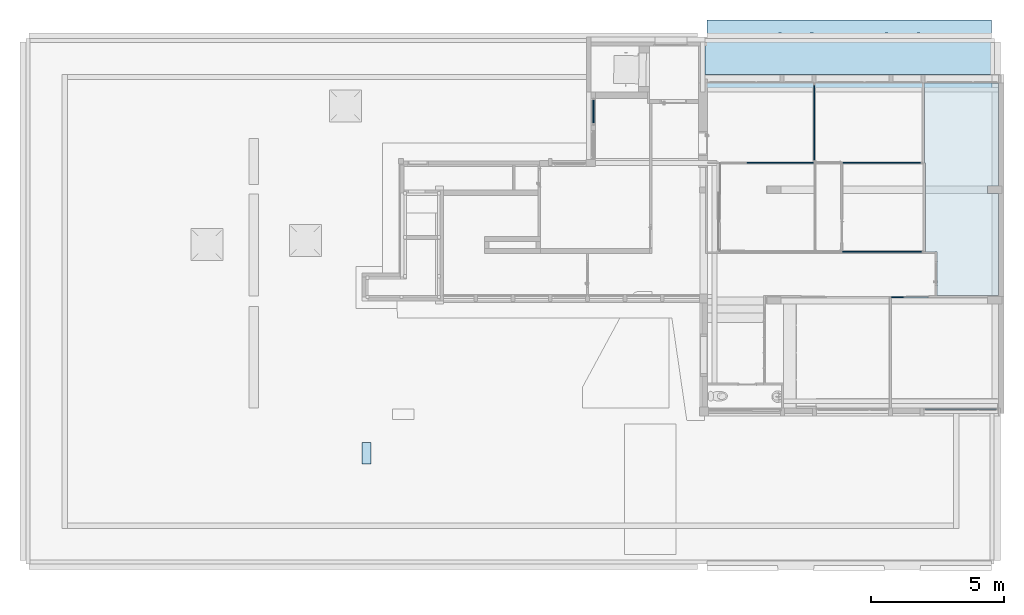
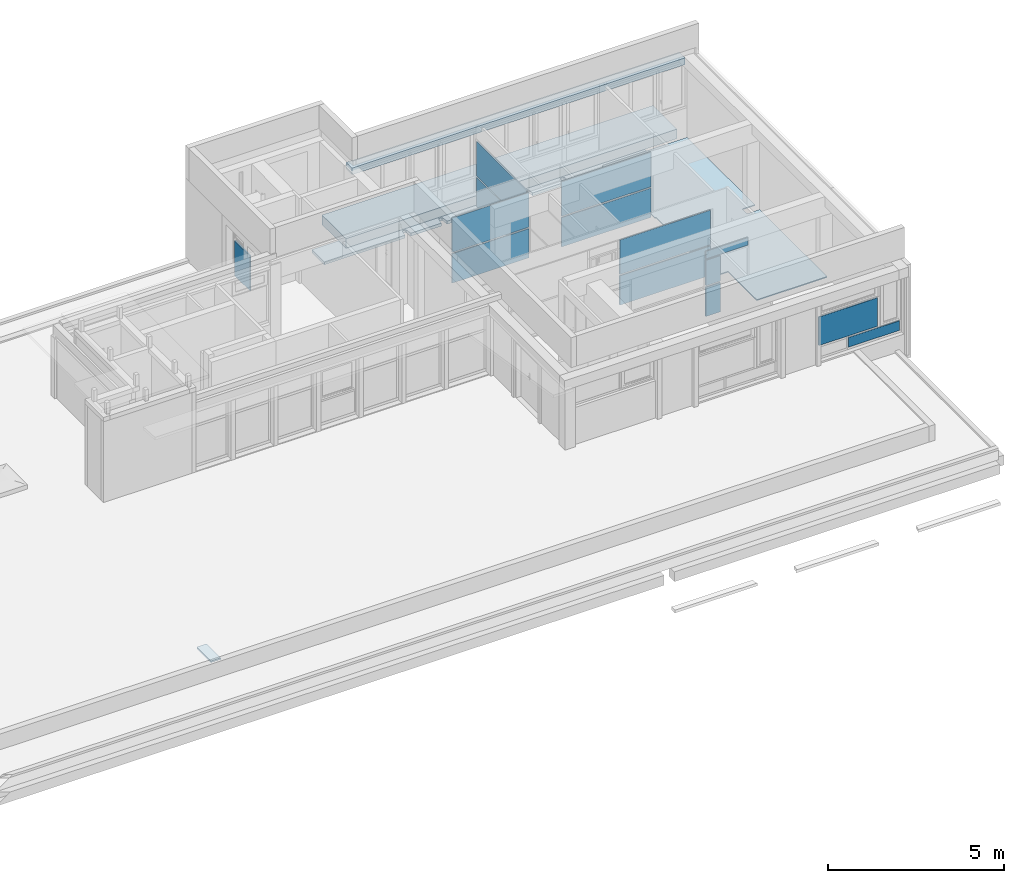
# One storey, part 20 of 49: 14 plates, 5 slabs, 8 elements without a shape of their own.
"""IFC4 building model written with IfcOpenShell, lengths in metres."""

from ifc_helpers import new_model, entity, si_unit, converted_unit, derived_unit, direction, frame, origin, place, context, subcontext, project, spatial, indexed_curve, outline, extrude, shape, source, transform, mapped, material, layer, layer_set, type_object, type_shapes, element, aggregate, save


model = new_model("IFC4")

# Units and contexts
model_context = context("Model", 3, precision=1e-05, world=origin(), true_north=direction((6.12303176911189e-17, 1.0)))
body_context = subcontext(model_context, "Body", "Model", "MODEL_VIEW")
footprint_context = subcontext(model_context, "FootPrint", "Model", "MODEL_VIEW")
ifc_project = project(units=[si_unit("LENGTHUNIT", "METRE"), si_unit("AREAUNIT", "SQUARE_METRE"), si_unit("VOLUMEUNIT", "CUBIC_METRE"), converted_unit("PLANEANGLEUNIT", "DEGREE", entity("IfcRatioMeasure", 0.0174532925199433), si_unit("PLANEANGLEUNIT", "RADIAN"), dimensions=[0, 0, 0, 0, 0, 0, 0]), si_unit("MASSUNIT", "GRAM", prefix="KILO"), derived_unit("MASSDENSITYUNIT", [(si_unit("MASSUNIT", "GRAM", prefix="KILO"), 1), (si_unit("LENGTHUNIT", "METRE"), -3)]), derived_unit("MOMENTOFINERTIAUNIT", [(si_unit("LENGTHUNIT", "METRE"), 4)]), si_unit("TIMEUNIT", "SECOND"), si_unit("FREQUENCYUNIT", "HERTZ"), si_unit("THERMODYNAMICTEMPERATUREUNIT", "DEGREE_CELSIUS"), derived_unit("THERMALTRANSMITTANCEUNIT", [(si_unit("MASSUNIT", "GRAM", prefix="KILO"), 1), (si_unit("THERMODYNAMICTEMPERATUREUNIT", "KELVIN"), -1), (si_unit("TIMEUNIT", "SECOND"), -3)]), derived_unit("VOLUMETRICFLOWRATEUNIT", [(si_unit("LENGTHUNIT", "METRE"), 3), (si_unit("TIMEUNIT", "SECOND"), -1)]), si_unit("ELECTRICCURRENTUNIT", "AMPERE"), si_unit("ELECTRICVOLTAGEUNIT", "VOLT"), si_unit("POWERUNIT", "WATT"), si_unit("FORCEUNIT", "NEWTON", prefix="KILO"), si_unit("ILLUMINANCEUNIT", "LUX"), si_unit("LUMINOUSFLUXUNIT", "LUMEN"), si_unit("LUMINOUSINTENSITYUNIT", "CANDELA"), derived_unit("USERDEFINED", [(si_unit("MASSUNIT", "GRAM", prefix="KILO"), -1), (si_unit("LENGTHUNIT", "METRE"), -2), (si_unit("TIMEUNIT", "SECOND"), 3), (si_unit("LUMINOUSFLUXUNIT", "LUMEN"), 1)]), derived_unit("LINEARVELOCITYUNIT", [(si_unit("LENGTHUNIT", "METRE"), 1), (si_unit("TIMEUNIT", "SECOND"), -1)]), si_unit("PRESSUREUNIT", "PASCAL"), derived_unit("USERDEFINED", [(si_unit("LENGTHUNIT", "METRE"), -2), (si_unit("MASSUNIT", "GRAM", prefix="KILO"), 1), (si_unit("TIMEUNIT", "SECOND"), -2)]), derived_unit("LINEARFORCEUNIT", [(si_unit("MASSUNIT", "GRAM", prefix="KILO"), 1), (si_unit("LENGTHUNIT", "METRE"), 1), (si_unit("TIMEUNIT", "SECOND"), -2), (si_unit("LENGTHUNIT", "METRE"), -1)]), derived_unit("PLANARFORCEUNIT", [(si_unit("MASSUNIT", "GRAM", prefix="KILO"), 1), (si_unit("LENGTHUNIT", "METRE"), 1), (si_unit("TIMEUNIT", "SECOND"), -2), (si_unit("LENGTHUNIT", "METRE"), -2)])], contexts=[model_context])

# Site, building, storey
site_placement = place(None, origin())
site = spatial("IfcSite", under=ifc_project, at=site_placement, Name="Default", CompositionType="ELEMENT")
building_placement = place(site_placement, origin())
building = spatial("IfcBuilding", under=site, at=building_placement, Name="HOTEL CONSULAIRE BOULOGNE SUR MER", CompositionType="ELEMENT")
storey_placement = place(building_placement, frame((0.0, 0.0, 6.81974152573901)))
storey = spatial("IfcBuildingStorey", under=building, at=storey_placement, Name="Niveau 2", CompositionType="ELEMENT", Elevation=6.81974152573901)

# Slab
ifc_material_1 = material(Name="Plâtre", Category="Plâtre")
ifc_layer_1 = layer(ifc_material_1, 0.05, Name="Plâtre", Category="Plâtre")
ifc_layer_set_1 = layer_set([ifc_layer_1], Name="Sol:plâtre 50")
slab_type_1 = type_object("IfcSlabType", Name="Sol:plâtre 50", PredefinedType="FLOOR", material=ifc_layer_set_1)
slab_1_placement = place(storey_placement, origin())
element("IfcSlab", 1, at=slab_1_placement, inside=storey, type_object=slab_type_1, material=ifc_layer_set_1, Name="Sol:plâtre 50", ObjectType="Sol:plâtre 50", PredefinedType="FLOOR", context=body_context, shape_type="SweptSolid", body=[
    extrude(outline(indexed_curve([(-0.4031453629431, -0.161), (0.403145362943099, -0.161), (0.4031453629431, 0.161), (-0.403145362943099, 0.161), (-0.4031453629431, -0.161)], self_intersect=False)), frame((-1.12314453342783, -25.5245460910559, -1.15221454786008), z_axis=(0.0, 0.0, -1.0), x_axis=(0.0, 1.0, 0.0)), (0.0, 0.0, 1.0), 0.0499999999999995),
])

# Curtain wall, plates
curtain_wall_type = type_object("IfcCurtainWallType", Name="Mur-rideau:Simple panneau", PredefinedType="NOTDEFINED")
curtain_wall_1_placement = place(storey_placement, frame((0.0, 0.0, -6.81974152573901)))
curtain_wall_1 = element("IfcCurtainWall", 2, at=curtain_wall_1_placement, inside=storey, type_object=curtain_wall_type, Name="Mur-rideau:Simple panneau", ObjectType="Mur-rideau:Simple panneau", PredefinedType="NOTDEFINED")
ifc_material_2 = material(Name="Verre", Category="Verre")
ifc_layer_2 = layer(ifc_material_2, 0.04, Name="Verre", Category="Verre")
ifc_layer_set_2 = layer_set([ifc_layer_2], Name="Mur-rideau:Simple panneau")
plate_type_1 = type_object("IfcPlateType", Name="Panneau système:Plein", PredefinedType="CURTAIN_PANEL", material=ifc_layer_set_2)
shared_shape_1 = source(origin(), body_context, "Body", "SweptSolid", [
    extrude(outline(indexed_curve([(-0.02, -0.238499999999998), (0.02, -0.238499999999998), (0.02, 0.238499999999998), (-0.02, 0.238499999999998), (-0.02, -0.238499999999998)], self_intersect=False)), frame((0.238499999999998, 0.02, 0.0), z_axis=(0.0, 0.0, 1.0), x_axis=(0.0, 1.0, 0.0)), (0.0, 0.0, 1.0), 1.016),
])
shared_shape_2 = source(frame((-0.238499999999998, 0.00500000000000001, 0.0)), footprint_context, "FootPrint", "Curve2D", [
    entity("IfcIndexedPolyCurve", entity("IfcCartesianPointList2D", [[0.311194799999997, 0.003476], [0.311194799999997, 0.043476], [-0.165805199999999, 0.043476], [-0.165805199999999, 0.003476], [0.311194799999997, 0.003476]]), None, False),
])
type_shapes(plate_type_1, [shared_shape_1, shared_shape_2])
plate_1_placement = place(curtain_wall_1_placement, frame((19.0453568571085, -19.648155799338, 6.88974152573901), z_axis=(0.0, 0.0, 1.0), x_axis=(-1.0, 0.0, 0.0)))
plate_1 = element("IfcPlate", 3, at=plate_1_placement, type_object=plate_type_1, material=ifc_layer_set_2, Name="Panneau système:Plein", ObjectType="Panneau système:Plein", PredefinedType="CURTAIN_PANEL", shapes=[
    shape(body_context, "Body", "MappedRepresentation", [mapped(shared_shape_1, transform((0.0, 0.0, 0.0), scale=1.0))]),
    shape(body_context, "Body", "MappedRepresentation", [mapped(shared_shape_2, transform((0.0, 0.0, 0.0), scale=1.0))]),
])
ifc_layer_3 = layer(ifc_material_2, 0.04, Name="Verre", Category="Verre")
ifc_layer_set_3 = layer_set([ifc_layer_3], Name="Mur-rideau:Simple panneau")
plate_type_2 = type_object("IfcPlateType", Name="Panneau système:Vitré", PredefinedType="CURTAIN_PANEL", material=ifc_layer_set_3)
shared_shape_3 = source(origin(), body_context, "Body", "SweptSolid", [
    extrude(outline(indexed_curve([(-0.02, -0.238499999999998), (0.02, -0.238499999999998), (0.02, 0.238499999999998), (-0.02, 0.238499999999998), (-0.02, -0.238499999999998)], self_intersect=False)), frame((0.238499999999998, 0.02, 0.0), z_axis=(0.0, 0.0, 1.0), x_axis=(0.0, 1.0, 0.0)), (0.0, 0.0, 1.0), 0.885),
])
shared_shape_4 = source(frame((-0.238499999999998, 0.00500000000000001, 0.0)), footprint_context, "FootPrint", "Curve2D", [
    entity("IfcIndexedPolyCurve", entity("IfcCartesianPointList2D", [[0.311194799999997, 0.003476], [0.311194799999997, 0.043476], [-0.165805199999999, 0.043476], [-0.165805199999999, 0.003476], [0.311194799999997, 0.003476]]), None, False),
])
type_shapes(plate_type_2, [shared_shape_3, shared_shape_4])
plate_2_placement = place(curtain_wall_1_placement, frame((19.0453568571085, -19.648155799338, 7.95574152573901), z_axis=(0.0, 0.0, 1.0), x_axis=(-1.0, 0.0, 0.0)))
plate_2 = element("IfcPlate", 4, at=plate_2_placement, type_object=plate_type_2, material=ifc_layer_set_3, Name="Panneau système:Vitré", ObjectType="Panneau système:Vitré", PredefinedType="CURTAIN_PANEL", shapes=[
    shape(body_context, "Body", "MappedRepresentation", [mapped(shared_shape_3, transform((0.0, 0.0, 0.0), scale=1.0))]),
    shape(body_context, "Body", "MappedRepresentation", [mapped(shared_shape_4, transform((0.0, 0.0, 0.0), scale=1.0))]),
])
plate_type_3 = type_object("IfcPlateType", Name="Panneau système:Vitré", PredefinedType="CURTAIN_PANEL", material=ifc_layer_set_3)
shared_shape_5 = source(origin(), body_context, "Body", "SweptSolid", [
    extrude(outline(indexed_curve([(-0.1305, -0.751333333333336), (0.1305, -0.751333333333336), (0.1305, 0.11966666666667), (0.1305, 0.631666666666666), (-0.1305, 0.631666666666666), (-0.1305, 0.11966666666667), (-0.1305, -0.751333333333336)], self_intersect=False)), frame((0.751333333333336, 0.0, 0.1305), z_axis=(0.0, 1.0, 0.0), x_axis=(0.0, 0.0, 1.0)), (0.0, 0.0, 1.0), 0.04),
])
shared_shape_6 = source(frame((-0.691500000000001, 0.00500000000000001, 0.0)), footprint_context, "FootPrint", "Curve2D", [
    entity("IfcIndexedPolyCurve", entity("IfcCartesianPointList2D", [[-0.480730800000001, 0.003476], [-0.480730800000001, 0.003476], [0.390269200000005, 0.003476], [0.902269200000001, 0.003476], [0.902269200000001, 0.003476], [0.390269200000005, 0.003476], [-0.480730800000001, 0.003476]]), None, False),
])
type_shapes(plate_type_3, [shared_shape_5, shared_shape_6])
plate_3_placement = place(curtain_wall_1_placement, frame((19.9513568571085, -19.648155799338, 8.89074152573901), z_axis=(0.0, 0.0, 1.0), x_axis=(-1.0, 0.0, 0.0)))
plate_3 = element("IfcPlate", 5, at=plate_3_placement, type_object=plate_type_3, material=ifc_layer_set_3, Name="Panneau système:Vitré", ObjectType="Panneau système:Vitré", PredefinedType="CURTAIN_PANEL", shapes=[
    shape(body_context, "Body", "MappedRepresentation", [mapped(shared_shape_5, transform((0.0, 0.0, 0.0), scale=1.0))]),
    shape(body_context, "Body", "MappedRepresentation", [mapped(shared_shape_6, transform((0.0, 0.0, 0.0), scale=1.0))]),
])
aggregate(curtain_wall_1, [plate_1, plate_2, plate_3])

curtain_wall_2_placement = place(storey_placement, frame((0.0, 0.0, -6.81974152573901)))
curtain_wall_2 = element("IfcCurtainWall", 6, at=curtain_wall_2_placement, inside=storey, type_object=curtain_wall_type, Name="Mur-rideau:Simple panneau", ObjectType="Mur-rideau:Simple panneau", PredefinedType="NOTDEFINED")
plate_type_4 = type_object("IfcPlateType", Name="Panneau système:Plein", PredefinedType="CURTAIN_PANEL", material=ifc_layer_set_2)
shared_shape_7 = source(origin(), body_context, "Body", "SweptSolid", [
    extrude(outline(indexed_curve([(-0.02, -1.46487282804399), (0.02, -1.46487282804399), (0.02, 1.46487282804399), (-0.02, 1.46487282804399), (-0.02, -1.46487282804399)], self_intersect=False)), frame((1.46487282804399, 0.02, 0.0), z_axis=(0.0, 0.0, 1.0), x_axis=(0.0, 1.0, 0.0)), (0.0, 0.0, 1.0), 1.016),
])
shared_shape_8 = source(frame((-1.46487282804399, 0.00500000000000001, 0.0)), footprint_context, "FootPrint", "Curve2D", [
    entity("IfcIndexedPolyCurve", entity("IfcCartesianPointList2D", [[1.9113660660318, 0.003476], [1.9113660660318, 0.043476], [-1.01837959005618, 0.043476], [-1.01837959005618, 0.003476], [1.9113660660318, 0.003476]]), None, False),
])
type_shapes(plate_type_4, [shared_shape_7, shared_shape_8])
plate_4_placement = place(curtain_wall_2_placement, frame((19.672821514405, -14.6074237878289, 6.88974152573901), z_axis=(0.0, 0.0, 1.0), x_axis=(-1.0, 0.0, 0.0)))
plate_4 = element("IfcPlate", 7, at=plate_4_placement, type_object=plate_type_4, material=ifc_layer_set_2, Name="Panneau système:Plein", ObjectType="Panneau système:Plein", PredefinedType="CURTAIN_PANEL", shapes=[
    shape(body_context, "Body", "MappedRepresentation", [mapped(shared_shape_7, transform((0.0, 0.0, 0.0), scale=1.0))]),
    shape(body_context, "Body", "MappedRepresentation", [mapped(shared_shape_8, transform((0.0, 0.0, 0.0), scale=1.0))]),
])
plate_type_5 = type_object("IfcPlateType", Name="Panneau système:Plein", PredefinedType="CURTAIN_PANEL", material=ifc_layer_set_2)
shared_shape_9 = source(origin(), body_context, "Body", "SweptSolid", [
    extrude(outline(indexed_curve([(-0.02, -1.2565), (0.02, -1.2565), (0.02, 1.2565), (-0.02, 1.2565), (-0.02, -1.2565)], self_intersect=False)), frame((1.2565, 0.02, 0.0), z_axis=(0.0, 0.0, 1.0), x_axis=(0.0, 1.0, 0.0)), (0.0, 0.0, 1.0), 1.016),
])
shared_shape_10 = source(frame((-1.2565, 0.00500000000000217, 0.0)), footprint_context, "FootPrint", "Curve2D", [
    entity("IfcIndexedPolyCurve", entity("IfcCartesianPointList2D", [[1.6394812, 0.00347600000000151], [1.6394812, 0.0434760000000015], [-0.873518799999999, 0.0434760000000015], [-0.873518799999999, 0.00347600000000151], [1.6394812, 0.00347600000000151]]), None, False),
])
type_shapes(plate_type_5, [shared_shape_9, shared_shape_10])
plate_5_placement = place(curtain_wall_2_placement, frame((15.661075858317, -14.6074237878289, 6.88974152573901), z_axis=(0.0, 0.0, 1.0), x_axis=(-1.0, 0.0, 0.0)))
plate_5 = element("IfcPlate", 8, at=plate_5_placement, type_object=plate_type_5, material=ifc_layer_set_2, Name="Panneau système:Plein", ObjectType="Panneau système:Plein", PredefinedType="CURTAIN_PANEL", shapes=[
    shape(body_context, "Body", "MappedRepresentation", [mapped(shared_shape_9, transform((0.0, 0.0, 0.0), scale=1.0))]),
    shape(body_context, "Body", "MappedRepresentation", [mapped(shared_shape_10, transform((0.0, 0.0, 0.0), scale=1.0))]),
])
plate_type_6 = type_object("IfcPlateType", Name="Panneau système:Vitré", PredefinedType="CURTAIN_PANEL", material=ifc_layer_set_3)
shared_shape_11 = source(origin(), body_context, "Body", "SweptSolid", [
    extrude(outline(indexed_curve([(-0.701999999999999, -1.46487282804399), (0.207999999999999, -1.46487282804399), (0.493999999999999, -1.46487282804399), (0.493999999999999, 1.46487282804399), (0.207999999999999, 1.46487282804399), (-0.701999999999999, 1.46487282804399), (-0.701999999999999, -1.46487282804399)], self_intersect=False)), frame((1.46487282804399, 0.0, 0.701999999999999), z_axis=(0.0, 1.0, 0.0), x_axis=(0.0, 0.0, 1.0)), (0.0, 0.0, 1.0), 0.04),
])
shared_shape_12 = source(frame((-1.46487282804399, 0.00500000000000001, 0.0)), footprint_context, "FootPrint", "Curve2D", [
    entity("IfcIndexedPolyCurve", entity("IfcCartesianPointList2D", [[-1.01837959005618, 0.003476], [-1.01837959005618, 0.003476], [-1.01837959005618, 0.003476], [1.9113660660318, 0.003476], [1.9113660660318, 0.003476], [1.9113660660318, 0.003476], [-1.01837959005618, 0.003476]]), None, False),
])
type_shapes(plate_type_6, [shared_shape_11, shared_shape_12])
plate_6_placement = place(curtain_wall_2_placement, frame((19.672821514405, -14.6074237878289, 7.95574152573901), z_axis=(0.0, 0.0, 1.0), x_axis=(-1.0, 0.0, 0.0)))
plate_6 = element("IfcPlate", 9, at=plate_6_placement, type_object=plate_type_6, material=ifc_layer_set_3, Name="Panneau système:Vitré", ObjectType="Panneau système:Vitré", PredefinedType="CURTAIN_PANEL", shapes=[
    shape(body_context, "Body", "MappedRepresentation", [mapped(shared_shape_11, transform((0.0, 0.0, 0.0), scale=1.0))]),
    shape(body_context, "Body", "MappedRepresentation", [mapped(shared_shape_12, transform((0.0, 0.0, 0.0), scale=1.0))]),
])
plate_type_7 = type_object("IfcPlateType", Name="Panneau système:Plein", PredefinedType="CURTAIN_PANEL", material=ifc_layer_set_2)
shared_shape_13 = source(origin(), body_context, "Body", "SweptSolid", [
    extrude(outline(indexed_curve([(-0.701999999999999, -1.2565), (0.207999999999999, -1.2565), (0.493999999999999, -1.2565), (0.493999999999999, 1.2565), (0.207999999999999, 1.2565), (-0.701999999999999, 1.2565), (-0.701999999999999, -1.2565)], self_intersect=False)), frame((1.2565, 0.0, 0.701999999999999), z_axis=(0.0, 1.0, 0.0), x_axis=(0.0, 0.0, 1.0)), (0.0, 0.0, 1.0), 0.04),
])
shared_shape_14 = source(frame((-1.2565, 0.00500000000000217, 0.0)), footprint_context, "FootPrint", "Curve2D", [
    entity("IfcIndexedPolyCurve", entity("IfcCartesianPointList2D", [[-0.873518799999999, 0.00347600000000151], [-0.873518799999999, 0.00347600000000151], [-0.873518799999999, 0.00347600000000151], [1.6394812, 0.00347600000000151], [1.6394812, 0.00347600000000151], [1.6394812, 0.00347600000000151], [-0.873518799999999, 0.00347600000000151]]), None, False),
])
type_shapes(plate_type_7, [shared_shape_13, shared_shape_14])
plate_7_placement = place(curtain_wall_2_placement, frame((15.661075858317, -14.6074237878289, 7.95574152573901), z_axis=(0.0, 0.0, 1.0), x_axis=(-1.0, 0.0, 0.0)))
plate_7 = element("IfcPlate", 10, at=plate_7_placement, type_object=plate_type_7, material=ifc_layer_set_2, Name="Panneau système:Plein", ObjectType="Panneau système:Plein", PredefinedType="CURTAIN_PANEL", shapes=[
    shape(body_context, "Body", "MappedRepresentation", [mapped(shared_shape_13, transform((0.0, 0.0, 0.0), scale=1.0))]),
    shape(body_context, "Body", "MappedRepresentation", [mapped(shared_shape_14, transform((0.0, 0.0, 0.0), scale=1.0))]),
])
aggregate(curtain_wall_2, [plate_4, plate_5, plate_6, plate_7])

curtain_wall_3_placement = place(storey_placement, frame((0.0, 0.0, -6.81974152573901)))
curtain_wall_3 = element("IfcCurtainWall", 11, at=curtain_wall_3_placement, inside=storey, type_object=curtain_wall_type, Name="Mur-rideau:Simple panneau", ObjectType="Mur-rideau:Simple panneau", PredefinedType="NOTDEFINED")
plate_type_8 = type_object("IfcPlateType", Name="Panneau système:Plein", PredefinedType="CURTAIN_PANEL", material=ifc_layer_set_2)
shared_shape_15 = source(origin(), body_context, "Body", "SweptSolid", [
    extrude(outline(indexed_curve([(-0.02, -1.4905), (0.02, -1.4905), (0.02, 1.4905), (-0.02, 1.4905), (-0.02, -1.4905)], self_intersect=False)), frame((1.4905, 0.02, 0.0), z_axis=(0.0, 0.0, 1.0), x_axis=(0.0, 1.0, 0.0)), (0.0, 0.0, 1.0), 1.016),
])
shared_shape_16 = source(frame((-1.4905, 0.00500000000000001, 0.0)), footprint_context, "FootPrint", "Curve2D", [
    entity("IfcIndexedPolyCurve", entity("IfcCartesianPointList2D", [[1.9448044, 0.003476], [1.9448044, 0.043476], [-1.0361956, 0.043476], [-1.0361956, 0.003476], [1.9448044, 0.003476]]), None, False),
])
type_shapes(plate_type_8, [shared_shape_15, shared_shape_16])
plate_8_placement = place(curtain_wall_3_placement, frame((19.712075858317, -17.9363078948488, 6.88974152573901), z_axis=(0.0, 0.0, 1.0), x_axis=(-1.0, 0.0, 0.0)))
plate_8 = element("IfcPlate", 12, at=plate_8_placement, type_object=plate_type_8, material=ifc_layer_set_2, Name="Panneau système:Plein", ObjectType="Panneau système:Plein", PredefinedType="CURTAIN_PANEL", shapes=[
    shape(body_context, "Body", "MappedRepresentation", [mapped(shared_shape_15, transform((0.0, 0.0, 0.0), scale=1.0))]),
    shape(body_context, "Body", "MappedRepresentation", [mapped(shared_shape_16, transform((0.0, 0.0, 0.0), scale=1.0))]),
])
plate_type_9 = type_object("IfcPlateType", Name="Panneau système:Vitré", PredefinedType="CURTAIN_PANEL", material=ifc_layer_set_3)
shared_shape_17 = source(origin(), body_context, "Body", "SweptSolid", [
    extrude(outline(indexed_curve([(-0.701999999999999, -1.4905), (0.207999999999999, -1.4905), (0.493999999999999, -1.4905), (0.493999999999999, 1.4905), (0.207999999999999, 1.4905), (-0.701999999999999, 1.4905), (-0.701999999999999, -1.4905)], self_intersect=False)), frame((1.4905, 0.0, 0.701999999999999), z_axis=(0.0, 1.0, 0.0), x_axis=(0.0, 0.0, 1.0)), (0.0, 0.0, 1.0), 0.04),
])
shared_shape_18 = source(frame((-1.4905, 0.00500000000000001, 0.0)), footprint_context, "FootPrint", "Curve2D", [
    entity("IfcIndexedPolyCurve", entity("IfcCartesianPointList2D", [[-1.0361956, 0.003476], [-1.0361956, 0.003476], [-1.0361956, 0.003476], [1.9448044, 0.003476], [1.9448044, 0.003476], [1.9448044, 0.003476], [-1.0361956, 0.003476]]), None, False),
])
type_shapes(plate_type_9, [shared_shape_17, shared_shape_18])
plate_9_placement = place(curtain_wall_3_placement, frame((19.712075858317, -17.9363078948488, 7.95574152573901), z_axis=(0.0, 0.0, 1.0), x_axis=(-1.0, 0.0, 0.0)))
plate_9 = element("IfcPlate", 13, at=plate_9_placement, type_object=plate_type_9, material=ifc_layer_set_3, Name="Panneau système:Vitré", ObjectType="Panneau système:Vitré", PredefinedType="CURTAIN_PANEL", shapes=[
    shape(body_context, "Body", "MappedRepresentation", [mapped(shared_shape_17, transform((0.0, 0.0, 0.0), scale=1.0))]),
    shape(body_context, "Body", "MappedRepresentation", [mapped(shared_shape_18, transform((0.0, 0.0, 0.0), scale=1.0))]),
])
aggregate(curtain_wall_3, [plate_8, plate_9])

curtain_wall_4_placement = place(storey_placement, frame((0.0, 0.0, -6.81974152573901)))
curtain_wall_4 = element("IfcCurtainWall", 14, at=curtain_wall_4_placement, inside=storey, type_object=curtain_wall_type, Name="Mur-rideau:Simple panneau", ObjectType="Mur-rideau:Simple panneau", PredefinedType="NOTDEFINED")
plate_type_10 = type_object("IfcPlateType", Name="Panneau système:Vitré", PredefinedType="CURTAIN_PANEL", material=ifc_layer_set_3)
shared_shape_19 = source(origin(), body_context, "Body", "SweptSolid", [
    extrude(outline(indexed_curve([(-0.168, -0.895000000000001), (0.168, -0.895000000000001), (0.168, 0.103000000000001), (0.168, 0.792), (-0.168, 0.792), (-0.168, 0.103000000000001), (-0.168, -0.895000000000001)], self_intersect=False)), frame((0.895000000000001, 0.0, 0.168), z_axis=(0.0, 1.0, 0.0), x_axis=(0.0, 0.0, 1.0)), (0.0, 0.0, 1.0), 0.04),
])
shared_shape_20 = source(frame((-0.843500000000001, 0.00500000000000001, 0.0)), footprint_context, "FootPrint", "Curve2D", [
    entity("IfcIndexedPolyCurve", entity("IfcCartesianPointList2D", [[-0.5864012, 0.003476], [-0.5864012, 0.003476], [0.411598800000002, 0.003476], [1.1005988, 0.003476], [1.1005988, 0.003476], [0.411598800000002, 0.003476], [-0.5864012, 0.003476]]), None, False),
])
type_shapes(plate_type_10, [shared_shape_19, shared_shape_20])
plate_10_placement = place(curtain_wall_4_placement, frame((20.8180413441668, -23.8883633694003, 7.58374152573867)))
plate_10 = element("IfcPlate", 15, at=plate_10_placement, type_object=plate_type_10, material=ifc_layer_set_3, Name="Panneau système:Vitré", ObjectType="Panneau système:Vitré", PredefinedType="CURTAIN_PANEL", shapes=[
    shape(body_context, "Body", "MappedRepresentation", [mapped(shared_shape_19, transform((0.0, 0.0, 0.0), scale=1.0))]),
    shape(body_context, "Body", "MappedRepresentation", [mapped(shared_shape_20, transform((0.0, 0.0, 0.0), scale=1.0))]),
])
plate_type_11 = type_object("IfcPlateType", Name="Panneau système:Vitré", PredefinedType="CURTAIN_PANEL", material=ifc_layer_set_3)
shared_shape_21 = source(origin(), body_context, "Body", "SweptSolid", [
    extrude(outline(indexed_curve([(-0.495, -0.956000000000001), (0.495, -0.956000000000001), (0.495, -0.0160000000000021), (0.495, 0.972000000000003), (-0.495, 0.972000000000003), (-0.495, -0.0160000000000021), (-0.495, -0.956000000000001)], self_intersect=False)), frame((0.956000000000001, 0.0, 0.495), z_axis=(0.0, 1.0, 0.0), x_axis=(0.0, 0.0, 1.0)), (0.0, 0.0, 1.0), 0.04),
])
shared_shape_22 = source(frame((-0.964000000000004, 0.00499999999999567, 0.0)), footprint_context, "FootPrint", "Curve2D", [
    entity("IfcIndexedPolyCurve", entity("IfcCartesianPointList2D", [[-0.670172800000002, 0.00347599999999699], [-0.670172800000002, 0.00347599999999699], [0.269827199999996, 0.00347599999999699], [1.2578272, 0.00347599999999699], [1.2578272, 0.00347599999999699], [0.269827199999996, 0.00347599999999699], [-0.670172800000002, 0.00347599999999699]]), None, False),
])
type_shapes(plate_type_11, [shared_shape_21, shared_shape_22])
plate_11_placement = place(curtain_wall_4_placement, frame((19.8480413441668, -23.8883633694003, 7.97974152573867)))
plate_11 = element("IfcPlate", 16, at=plate_11_placement, type_object=plate_type_11, material=ifc_layer_set_3, Name="Panneau système:Vitré", ObjectType="Panneau système:Vitré", PredefinedType="CURTAIN_PANEL", shapes=[
    shape(body_context, "Body", "MappedRepresentation", [mapped(shared_shape_21, transform((0.0, 0.0, 0.0), scale=1.0))]),
    shape(body_context, "Body", "MappedRepresentation", [mapped(shared_shape_22, transform((0.0, 0.0, 0.0), scale=1.0))]),
])
aggregate(curtain_wall_4, [plate_10, plate_11])

# Curtain wall, plate
curtain_wall_5_placement = place(storey_placement, frame((0.0, 0.0, -6.81974152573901)))
curtain_wall_5 = element("IfcCurtainWall", 17, at=curtain_wall_5_placement, inside=storey, type_object=curtain_wall_type, Name="Mur-rideau:Simple panneau", ObjectType="Mur-rideau:Simple panneau", PredefinedType="NOTDEFINED")
plate_type_12 = type_object("IfcPlateType", Name="Panneau système:Vitré", PredefinedType="CURTAIN_PANEL", material=ifc_layer_set_3)
shared_shape_23 = source(origin(), body_context, "Body", "SweptSolid", [
    extrude(outline(indexed_curve([(-0.02, -0.442372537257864), (0.02, -0.442372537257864), (0.02, 0.442372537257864), (-0.02, 0.442372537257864), (-0.02, -0.442372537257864)], self_intersect=False)), frame((0.442372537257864, 0.02, 0.0), z_axis=(0.0, 0.0, 1.0), x_axis=(0.0, 1.0, 0.0)), (0.0, 0.0, 1.0), 1.214),
])
shared_shape_24 = source(frame((-0.442372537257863, 0.0050000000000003, 0.0)), footprint_context, "FootPrint", "Curve2D", [
    entity("IfcIndexedPolyCurve", entity("IfcCartesianPointList2D", [[0.577207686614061, 0.00347600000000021], [0.577207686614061, 0.0434760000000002], [-0.307537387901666, 0.0434760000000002], [-0.307537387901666, 0.00347600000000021], [0.577207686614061, 0.00347600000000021]]), None, False),
])
type_shapes(plate_type_12, [shared_shape_23, shared_shape_24])
plate_12_placement = place(curtain_wall_5_placement, frame((7.3739802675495, -12.2607913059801, 7.73447563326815), z_axis=(0.0, 0.0, 1.0), x_axis=(0.0, -1.0, 0.0)))
plate_12 = element("IfcPlate", 18, at=plate_12_placement, type_object=plate_type_12, material=ifc_layer_set_3, Name="Panneau système:Vitré", ObjectType="Panneau système:Vitré", PredefinedType="CURTAIN_PANEL", shapes=[
    shape(body_context, "Body", "MappedRepresentation", [mapped(shared_shape_23, transform((0.0, 0.0, 0.0), scale=1.0))]),
    shape(body_context, "Body", "MappedRepresentation", [mapped(shared_shape_24, transform((0.0, 0.0, 0.0), scale=1.0))]),
])
aggregate(curtain_wall_5, [plate_12])

# Roof, slab
roof_1_placement = place(storey_placement, frame((11.5809585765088, -11.3164237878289, -0.188)))
roof_1 = element("IfcRoof", 19, at=roof_1_placement, inside=storey, Name="Toit de base:Toit - 200 mm 2", ObjectType="Toit de base:Toit - 200 mm 2", PredefinedType="NOTDEFINED")
slab_type_2 = type_object("IfcSlabType", Name="Toit de base:Toit - 200 mm 2", PredefinedType="ROOF")
slab_2_placement = place(roof_1_placement, origin())
slab_2 = element("IfcSlab", 20, at=slab_2_placement, type_object=slab_type_2, Name="Toit de base:Toit - 200 mm 2", ObjectType="Toit de base:Toit - 200 mm 2", PredefinedType="NOTDEFINED", context=body_context, shape_type="SweptSolid", body=[
    extrude(outline(indexed_curve([(-5.43433986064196, 0.68089571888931), (-5.43433986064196, 0.53089571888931), (-5.43433986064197, -0.680895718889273), (5.43433986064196, -0.680895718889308), (5.43433986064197, 0.680895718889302), (-5.43433986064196, 0.68089571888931)], self_intersect=False)), frame((5.43433986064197, 0.680895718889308, 0.0)), (0.0, 0.0, 1.0), 0.33),
])
aggregate(roof_1, [slab_2])

roof_type = type_object("IfcRoofType", Name="Toit de base:Toit - 100 mm", PredefinedType="NOTDEFINED")
roof_2_placement = place(storey_placement, frame((11.4009585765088, -11.9711980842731, 2.822)))
roof_2 = element("IfcRoof", 21, at=roof_2_placement, inside=storey, type_object=roof_type, Name="Toit de base:Toit - 100 mm", ObjectType="Toit de base:Toit - 100 mm", PredefinedType="NOTDEFINED")
slab_type_3 = type_object("IfcSlabType", Name="Toit de base:Toit - 100 mm", PredefinedType="ROOF")
slab_3_placement = place(storey_placement, frame((11.4009585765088, -11.9711980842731, 2.822)))
slab_3 = element("IfcSlab", 22, at=slab_3_placement, type_object=slab_type_3, Name="Toit de base:Toit - 100 mm:1", ObjectType="Toit de base:Toit - 100 mm", PredefinedType="ROOF", context=body_context, shape_type="SweptSolid", body=[
    extrude(outline(indexed_curve([(-0.167387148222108, -6.05570115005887), (0.167387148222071, -6.05570115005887), (0.167387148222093, 0.551861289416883), (0.167387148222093, 0.621861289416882), (0.167387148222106, 4.8819785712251), (-0.16738714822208, 4.8819785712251), (-0.167387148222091, 0.621861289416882), (-0.167387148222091, 0.551861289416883), (-0.167387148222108, -6.05570115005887)], self_intersect=False)), frame((4.8819785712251, 0.16738714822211, 0.0), z_axis=(0.0, 0.0, 1.0), x_axis=(0.0, 1.0, 0.0)), (0.0, 0.0, 1.0), 0.23),
])
aggregate(roof_2, [slab_3])

# Curtain wall, plates
curtain_wall_6_placement = place(storey_placement, frame((0.0, 0.0, -6.81974152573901)))
curtain_wall_6 = element("IfcCurtainWall", 23, at=curtain_wall_6_placement, inside=storey, type_object=curtain_wall_type, Name="Mur-rideau:Simple panneau", ObjectType="Mur-rideau:Simple panneau", PredefinedType="NOTDEFINED")
plate_type_13 = type_object("IfcPlateType", Name="Panneau système:Vitré", PredefinedType="CURTAIN_PANEL", material=ifc_layer_set_3)
shared_shape_25 = source(origin(), body_context, "Body", "SweptSolid", [
    extrude(outline(indexed_curve([(-0.02, -1.41250000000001), (0.02, -1.41250000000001), (0.02, 1.41250000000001), (-0.02, 1.41250000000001), (-0.02, -1.41250000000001)], self_intersect=False)), frame((1.41250000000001, 0.02, 0.0), z_axis=(0.0, 0.0, 1.0), x_axis=(0.0, 1.0, 0.0)), (0.0, 0.0, 1.0), 1.016),
])
shared_shape_26 = source(frame((-1.41250000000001, 0.00500000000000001, 0.0)), footprint_context, "FootPrint", "Curve2D", [
    entity("IfcIndexedPolyCurve", entity("IfcCartesianPointList2D", [[1.84303000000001, 0.003476], [1.84303000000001, 0.043476], [-0.981970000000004, 0.043476], [-0.981970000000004, 0.003476], [1.84303000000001, 0.003476]]), None, False),
])
type_shapes(plate_type_13, [shared_shape_25, shared_shape_26])
plate_13_placement = place(curtain_wall_6_placement, frame((15.691075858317, -14.5314237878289, 6.88974152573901), z_axis=(0.0, 0.0, 1.0), x_axis=(0.0, 1.0, 0.0)))
plate_13 = element("IfcPlate", 24, at=plate_13_placement, type_object=plate_type_13, material=ifc_layer_set_3, Name="Panneau système:Vitré", ObjectType="Panneau système:Vitré", PredefinedType="CURTAIN_PANEL", shapes=[
    shape(body_context, "Body", "MappedRepresentation", [mapped(shared_shape_25, transform((0.0, 0.0, 0.0), scale=1.0))]),
    shape(body_context, "Body", "MappedRepresentation", [mapped(shared_shape_26, transform((0.0, 0.0, 0.0), scale=1.0))]),
])
plate_type_14 = type_object("IfcPlateType", Name="Panneau système:Vitré", PredefinedType="CURTAIN_PANEL", material=ifc_layer_set_3)
shared_shape_27 = source(origin(), body_context, "Body", "SweptSolid", [
    extrude(outline(indexed_curve([(-0.02, -1.41250000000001), (0.02, -1.41250000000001), (0.02, 1.41250000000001), (-0.02, 1.41250000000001), (-0.02, -1.41250000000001)], self_intersect=False)), frame((1.41250000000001, 0.02, 0.0), z_axis=(0.0, 0.0, 1.0), x_axis=(0.0, 1.0, 0.0)), (0.0, 0.0, 1.0), 1.196),
])
shared_shape_28 = source(frame((-1.41250000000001, 0.00500000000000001, 0.0)), footprint_context, "FootPrint", "Curve2D", [
    entity("IfcIndexedPolyCurve", entity("IfcCartesianPointList2D", [[1.84303000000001, 0.003476], [1.84303000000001, 0.043476], [-0.981970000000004, 0.043476], [-0.981970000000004, 0.003476], [1.84303000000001, 0.003476]]), None, False),
])
type_shapes(plate_type_14, [shared_shape_27, shared_shape_28])
plate_14_placement = place(curtain_wall_6_placement, frame((15.691075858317, -14.5314237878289, 7.95574152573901), z_axis=(0.0, 0.0, 1.0), x_axis=(0.0, 1.0, 0.0)))
plate_14 = element("IfcPlate", 25, at=plate_14_placement, type_object=plate_type_14, material=ifc_layer_set_3, Name="Panneau système:Vitré", ObjectType="Panneau système:Vitré", PredefinedType="CURTAIN_PANEL", shapes=[
    shape(body_context, "Body", "MappedRepresentation", [mapped(shared_shape_27, transform((0.0, 0.0, 0.0), scale=1.0))]),
    shape(body_context, "Body", "MappedRepresentation", [mapped(shared_shape_28, transform((0.0, 0.0, 0.0), scale=1.0))]),
])
aggregate(curtain_wall_6, [plate_13, plate_14])

# Slabs
ifc_material_3 = material(Name="Sol en vinyl", Category="Planchers")
ifc_layer_4 = layer(ifc_material_3, 0.035, Name="Sol en vinyl", Category="Planchers")
ifc_layer_set_4 = layer_set([ifc_layer_4], Name="Sol:vinyle 35 mm")
slab_type_4 = type_object("IfcSlabType", Name="Sol:vinyle 35 mm", PredefinedType="FLOOR", material=ifc_layer_set_4)
slab_4_placement = place(storey_placement, origin())
element("IfcSlab", 26, at=slab_4_placement, inside=storey, type_object=slab_type_4, material=ifc_layer_set_4, Name="Sol:vinyle 35 mm", ObjectType="Sol:vinyle 35 mm", PredefinedType="FLOOR", context=body_context, shape_type="SweptSolid", body=[
    extrude(outline(indexed_curve([(1.22469463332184, -1.40968884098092), (4.21469463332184, -1.40968884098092), (4.21469463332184, 1.3754256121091), (0.35320861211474, 1.3754256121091), (0.353208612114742, 0.963425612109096), (0.0832086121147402, 0.963425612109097), (0.0832086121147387, 1.3754256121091), (-3.75203737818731, 1.3754256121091), (-3.75203737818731, -0.934153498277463), (-2.12376911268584, -0.934153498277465), (-2.12376911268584, -1.37043449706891), (1.22469463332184, -1.37043449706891), (1.22469463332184, -1.40968884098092)], self_intersect=False)), frame((21.222510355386, -15.8511184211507, 0.0), z_axis=(0.0, 0.0, -1.0), x_axis=(0.0, 1.0, 0.0)), (0.0, 0.0, 1.0), 0.0349999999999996),
])
ifc_material_4 = material(Name="Béton, coulé sur place", Category="Béton")
ifc_layer_5 = layer(ifc_material_4, 0.1, Name="Béton, coulé sur place", Category="Béton")
ifc_layer_set_5 = layer_set([ifc_layer_5], Name="Sol:béton 100")
slab_type_5 = type_object("IfcSlabType", Name="Sol:béton 100", PredefinedType="FLOOR", material=ifc_layer_set_5)
slab_5_placement = place(storey_placement, origin())
element("IfcSlab", 27, at=slab_5_placement, inside=storey, type_object=slab_type_5, material=ifc_layer_set_5, Name="Sol:béton 100", ObjectType="Sol:béton 100", PredefinedType="FLOOR", context=body_context, shape_type="SweptSolid", body=[
    extrude(outline(indexed_curve([(-0.162280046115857, -5.34397073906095), (0.547125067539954, -5.34397073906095), (0.54712506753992, 5.34641029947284), (-0.162280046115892, 5.34641029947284), (-0.162280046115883, 2.69437331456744), (0.0660687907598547, 2.66012098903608), (0.0660687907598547, 2.53782098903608), (-0.162280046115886, 2.50356866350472), (-0.162280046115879, 1.4958477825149), (0.0660687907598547, 1.46159545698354), (0.0660687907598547, 1.33929545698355), (-0.162280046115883, 1.30504313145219), (-0.16228004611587, -1.30766151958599), (0.0660687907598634, -1.34191384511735), (0.0660687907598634, -1.46421384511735), (-0.162280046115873, -1.49846617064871), (-0.162280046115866, -2.50217005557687), (0.066068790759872, -2.53642238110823), (0.066068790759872, -2.65872238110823), (-0.162280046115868, -2.69297470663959), (-0.162280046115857, -5.34397073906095)], self_intersect=False)), frame((16.9906090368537, -9.81173732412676, -1.49885111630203), z_axis=(0.0, 0.0, -1.0), x_axis=(0.0, 1.0, 0.0)), (0.0, 0.0, 1.0), 0.1),
])

save(model, "model.ifc")
